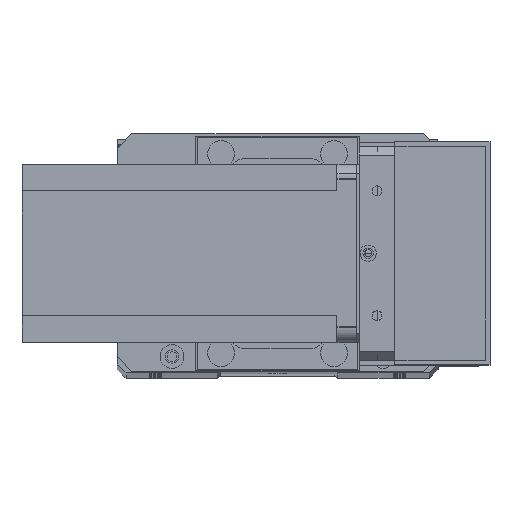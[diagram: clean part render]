
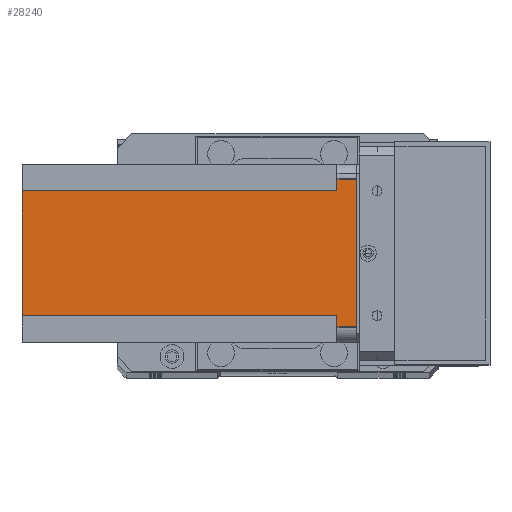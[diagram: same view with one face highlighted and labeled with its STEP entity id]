
A CAD part, top view. The second image highlights one B-rep face of the part: STEP entity #28240.
In plain terms, the highlighted planar face has unit normal (0, 0, 1) as drawn and (1, 0, 0) by its records, which use the part's own axes.
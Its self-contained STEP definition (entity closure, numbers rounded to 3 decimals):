
#485 = LINE ( 'NONE', #6817, #1234 ) ;
#651 = PLANE ( 'NONE',  #17852 ) ;
#731 = LINE ( 'NONE', #22714, #13213 ) ;
#742 = DIRECTION ( 'NONE',  ( 0., 1., 0. ) ) ;
#1026 = DIRECTION ( 'NONE',  ( 0., 1., 0. ) ) ;
#1234 = VECTOR ( 'NONE', #13927, 1000. ) ;
#1494 = DIRECTION ( 'NONE',  ( 0., 1., 0. ) ) ;
#2615 = ORIENTED_EDGE ( 'NONE', *, *, #22831, .F. ) ;
#2881 = CARTESIAN_POINT ( 'NONE',  ( 60., 55., -6.5 ) ) ;
#3132 = DIRECTION ( 'NONE',  ( 0., 0., 1. ) ) ;
#4579 = DIRECTION ( 'NONE',  ( 0., 0., -1. ) ) ;
#4632 = VERTEX_POINT ( 'NONE', #17244 ) ;
#4834 = ORIENTED_EDGE ( 'NONE', *, *, #17721, .T. ) ;
#4909 = FACE_OUTER_BOUND ( 'NONE', #29031, .T. ) ;
#5250 = CARTESIAN_POINT ( 'NONE',  ( 60., 5., -6.5 ) ) ;
#5353 = CARTESIAN_POINT ( 'NONE',  ( 60., 60., -6.5 ) ) ;
#5687 = VERTEX_POINT ( 'NONE', #27509 ) ;
#6600 = ORIENTED_EDGE ( 'NONE', *, *, #10381, .F. ) ;
#6817 = CARTESIAN_POINT ( 'NONE',  ( 60., 9., -112.5 ) ) ;
#6901 = LINE ( 'NONE', #17235, #26432 ) ;
#7747 = ORIENTED_EDGE ( 'NONE', *, *, #27988, .F. ) ;
#8152 = EDGE_CURVE ( 'NONE', #5687, #26252, #731, .T. ) ;
#8747 = DIRECTION ( 'NONE',  ( 0., 0., -1. ) ) ;
#8949 = VERTEX_POINT ( 'NONE', #27872 ) ;
#9693 = DIRECTION ( 'NONE',  ( 0., -1., 0. ) ) ;
#10085 = CARTESIAN_POINT ( 'NONE',  ( 60., 5., 0. ) ) ;
#10278 = CARTESIAN_POINT ( 'NONE',  ( 60., 0., 0. ) ) ;
#10316 = VERTEX_POINT ( 'NONE', #2881 ) ;
#10381 = EDGE_CURVE ( 'NONE', #10316, #8949, #25277, .T. ) ;
#11063 = ORIENTED_EDGE ( 'NONE', *, *, #22094, .F. ) ;
#12019 = VECTOR ( 'NONE', #17188, 1000. ) ;
#12511 = ORIENTED_EDGE ( 'NONE', *, *, #18342, .T. ) ;
#13213 = VECTOR ( 'NONE', #1494, 1000. ) ;
#13290 = CARTESIAN_POINT ( 'NONE',  ( 60., 55., 0. ) ) ;
#13927 = DIRECTION ( 'NONE',  ( 0., 0., 1. ) ) ;
#14739 = EDGE_CURVE ( 'NONE', #8949, #26252, #29548, .T. ) ;
#14870 = DIRECTION ( 'NONE',  ( 1., 0., 0. ) ) ;
#14892 = LINE ( 'NONE', #10278, #26633 ) ;
#16827 = CARTESIAN_POINT ( 'NONE',  ( 60., 0., -6.5 ) ) ;
#17188 = DIRECTION ( 'NONE',  ( 0., -1., 0. ) ) ;
#17235 = CARTESIAN_POINT ( 'NONE',  ( 60., 55., -112.5 ) ) ;
#17244 = CARTESIAN_POINT ( 'NONE',  ( 60., 9., -6.5 ) ) ;
#17721 = EDGE_CURVE ( 'NONE', #18957, #28823, #27893, .T. ) ;
#17852 = AXIS2_PLACEMENT_3D ( 'NONE', #24226, #14870, #742 ) ;
#18342 = EDGE_CURVE ( 'NONE', #10316, #27801, #6901, .T. ) ;
#18585 = VECTOR ( 'NONE', #9693, 1000. ) ;
#18669 = CARTESIAN_POINT ( 'NONE',  ( 60., 5., -112.5 ) ) ;
#18957 = VERTEX_POINT ( 'NONE', #10085 ) ;
#20962 = CARTESIAN_POINT ( 'NONE',  ( 60., 51., -112.5 ) ) ;
#21688 = VECTOR ( 'NONE', #4579, 1000. ) ;
#22094 = EDGE_CURVE ( 'NONE', #4632, #28823, #26313, .T. ) ;
#22714 = CARTESIAN_POINT ( 'NONE',  ( 60., 0., -112.5 ) ) ;
#22831 = EDGE_CURVE ( 'NONE', #18957, #27801, #14892, .T. ) ;
#23341 = VECTOR ( 'NONE', #8747, 1000. ) ;
#24226 = CARTESIAN_POINT ( 'NONE',  ( 60., 0., -112.5 ) ) ;
#25277 = LINE ( 'NONE', #5353, #12019 ) ;
#25417 = ORIENTED_EDGE ( 'NONE', *, *, #8152, .T. ) ;
#26252 = VERTEX_POINT ( 'NONE', #20962 ) ;
#26313 = LINE ( 'NONE', #16827, #18585 ) ;
#26432 = VECTOR ( 'NONE', #3132, 1000. ) ;
#26633 = VECTOR ( 'NONE', #1026, 1000. ) ;
#26928 = ORIENTED_EDGE ( 'NONE', *, *, #14739, .F. ) ;
#27509 = CARTESIAN_POINT ( 'NONE',  ( 60., 9., -112.5 ) ) ;
#27639 = CARTESIAN_POINT ( 'NONE',  ( 60., 51., -112.5 ) ) ;
#27801 = VERTEX_POINT ( 'NONE', #13290 ) ;
#27872 = CARTESIAN_POINT ( 'NONE',  ( 60., 51., -6.5 ) ) ;
#27893 = LINE ( 'NONE', #18669, #21688 ) ;
#27988 = EDGE_CURVE ( 'NONE', #5687, #4632, #485, .T. ) ;
#28240 = ADVANCED_FACE ( 'NONE', ( #4909 ), #651, .T. ) ;
#28823 = VERTEX_POINT ( 'NONE', #5250 ) ;
#29031 = EDGE_LOOP ( 'NONE', ( #6600, #12511, #2615, #4834, #11063, #7747, #25417, #26928 ) ) ;
#29548 = LINE ( 'NONE', #27639, #23341 ) ;
